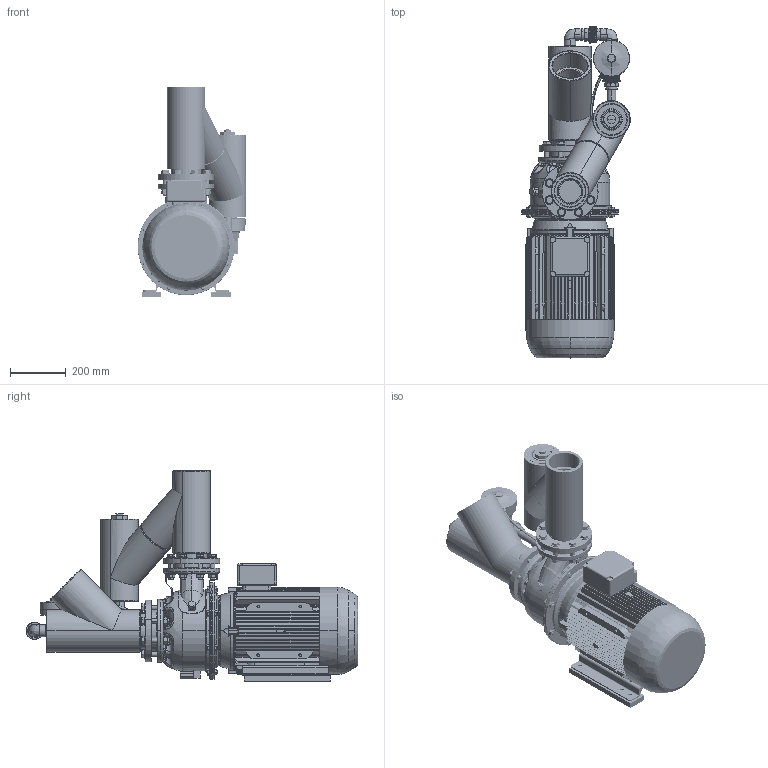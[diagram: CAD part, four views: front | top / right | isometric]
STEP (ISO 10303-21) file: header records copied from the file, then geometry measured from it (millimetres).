
FILE_DESCRIPTION (( 'STEP AP203' ), '1' );
FILE_NAME ('Lowara SHE 80-160 z.a.z auto. by-pass.STEP', '2011-04-08T07:05:41', ( '' ), ( '' ), 'SwSTEP 2.0', 'SolidWorks 2010', '' );
FILE_SCHEMA (( 'CONFIG_CONTROL_DESIGN' ));
Products named in the file (1): Lowara SHE 80-160 z.a.z auto. by-pass
Bounding box: 387.5 x 1185.66 x 751.78 mm (x, y, z)
Surface area: 4365711.5 mm2 (no closed solid volume)
Topology: 0 solids, 110 shells, 3630 faces, 8995 edges, 5630 vertices
Faces by surface type: plane 1347, cylinder 1068, cone 650, bspline 521, torus 44
Entity records: 153875 total; most frequent: CARTESIAN_POINT 72623, ORIENTED_EDGE 17799, DIRECTION 15954, EDGE_CURVE 8917, AXIS2_PLACEMENT_3D 6399, VERTEX_POINT 5631, EDGE_LOOP 4012, FACE_OUTER_BOUND 3631
